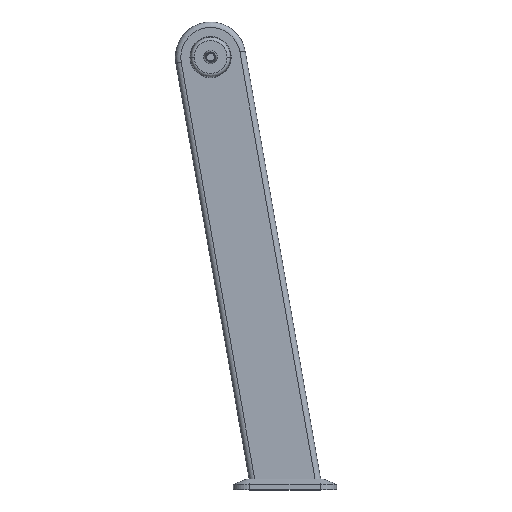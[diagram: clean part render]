
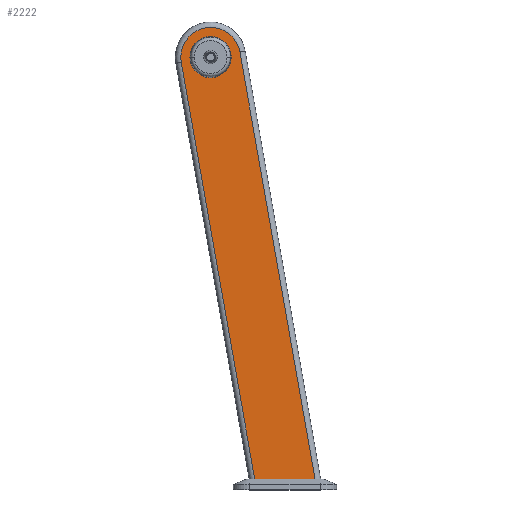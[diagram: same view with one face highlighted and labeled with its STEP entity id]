
A CAD part, top view. The second image highlights one B-rep face of the part: STEP entity #2222.
In plain terms, the highlighted planar face has unit normal (0, 0, 1).
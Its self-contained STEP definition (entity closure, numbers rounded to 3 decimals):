
#3 = CARTESIAN_POINT ( 'NONE',  ( 38., 0., 31.25 ) ) ;
#42 = AXIS2_PLACEMENT_3D ( 'NONE', #1838, #357, #2095 ) ;
#78 = LINE ( 'NONE', #1497, #2583 ) ;
#145 = VERTEX_POINT ( 'NONE', #3 ) ;
#161 = CARTESIAN_POINT ( 'NONE',  ( 0., -780., 31.25 ) ) ;
#224 = DIRECTION ( 'NONE',  ( 1., 0., 0. ) ) ;
#357 = DIRECTION ( 'NONE',  ( 0., 0., 1. ) ) ;
#381 = CIRCLE ( 'NONE', #2256, 38. ) ;
#503 = CARTESIAN_POINT ( 'NONE',  ( 0., 0., 31.25 ) ) ;
#517 = DIRECTION ( 'NONE',  ( 0., 0., 1. ) ) ;
#529 = LINE ( 'NONE', #1471, #3076 ) ;
#855 = DIRECTION ( 'NONE',  ( 0., 0., 1. ) ) ;
#1014 = VERTEX_POINT ( 'NONE', #2874 ) ;
#1166 = AXIS2_PLACEMENT_3D ( 'NONE', #3193, #1719, #224 ) ;
#1175 = CIRCLE ( 'NONE', #1166, 38. ) ;
#1278 = EDGE_LOOP ( 'NONE', ( #2844, #2201 ) ) ;
#1317 = EDGE_CURVE ( 'NONE', #2536, #145, #381, .T. ) ;
#1471 = CARTESIAN_POINT ( 'NONE',  ( 54.164, 9.551, 31.25 ) ) ;
#1479 = EDGE_CURVE ( 'NONE', #1486, #1713, #2619, .T. ) ;
#1486 = VERTEX_POINT ( 'NONE', #2173 ) ;
#1497 = CARTESIAN_POINT ( 'NONE',  ( 84.907, -798.264, 31.25 ) ) ;
#1616 = ORIENTED_EDGE ( 'NONE', *, *, #1479, .T. ) ;
#1618 = CIRCLE ( 'NONE', #42, 55. ) ;
#1652 = EDGE_CURVE ( 'NONE', #2790, #1486, #78, .T. ) ;
#1713 = VERTEX_POINT ( 'NONE', #2762 ) ;
#1714 = DIRECTION ( 'NONE',  ( -0.174, 0.985, 0. ) ) ;
#1719 = DIRECTION ( 'NONE',  ( 0., 0., 1. ) ) ;
#1817 = EDGE_CURVE ( 'NONE', #1014, #2790, #1618, .T. ) ;
#1838 = CARTESIAN_POINT ( 'NONE',  ( 0., 0., 31.25 ) ) ;
#1876 = CARTESIAN_POINT ( 'NONE',  ( -54.164, -9.551, 31.25 ) ) ;
#1912 = DIRECTION ( 'NONE',  ( 1., 0., 0. ) ) ;
#1962 = VECTOR ( 'NONE', #1912, 1000. ) ;
#2002 = AXIS2_PLACEMENT_3D ( 'NONE', #503, #517, #2249 ) ;
#2095 = DIRECTION ( 'NONE',  ( 1., 0., 0. ) ) ;
#2151 = EDGE_CURVE ( 'NONE', #145, #2536, #1175, .T. ) ;
#2154 = EDGE_CURVE ( 'NONE', #1713, #1014, #529, .T. ) ;
#2173 = CARTESIAN_POINT ( 'NONE',  ( 81.687, -780., 31.25 ) ) ;
#2201 = ORIENTED_EDGE ( 'NONE', *, *, #1317, .F. ) ;
#2222 = ADVANCED_FACE ( 'NONE', ( #2914, #2275 ), #3212, .T. ) ;
#2249 = DIRECTION ( 'NONE',  ( 1., 0., 0. ) ) ;
#2256 = AXIS2_PLACEMENT_3D ( 'NONE', #2348, #855, #2588 ) ;
#2275 = FACE_BOUND ( 'NONE', #1278, .T. ) ;
#2348 = CARTESIAN_POINT ( 'NONE',  ( 0., 0., 31.25 ) ) ;
#2356 = ORIENTED_EDGE ( 'NONE', *, *, #1817, .T. ) ;
#2536 = VERTEX_POINT ( 'NONE', #3195 ) ;
#2583 = VECTOR ( 'NONE', #2988, 1000. ) ;
#2588 = DIRECTION ( 'NONE',  ( 1., 0., 0. ) ) ;
#2619 = LINE ( 'NONE', #161, #1962 ) ;
#2762 = CARTESIAN_POINT ( 'NONE',  ( 193.384, -780., 31.25 ) ) ;
#2790 = VERTEX_POINT ( 'NONE', #1876 ) ;
#2844 = ORIENTED_EDGE ( 'NONE', *, *, #2151, .F. ) ;
#2874 = CARTESIAN_POINT ( 'NONE',  ( 54.164, 9.551, 31.25 ) ) ;
#2914 = FACE_OUTER_BOUND ( 'NONE', #2977, .T. ) ;
#2915 = ORIENTED_EDGE ( 'NONE', *, *, #1652, .T. ) ;
#2977 = EDGE_LOOP ( 'NONE', ( #2998, #2356, #2915, #1616 ) ) ;
#2988 = DIRECTION ( 'NONE',  ( 0.174, -0.985, 0. ) ) ;
#2998 = ORIENTED_EDGE ( 'NONE', *, *, #2154, .T. ) ;
#3076 = VECTOR ( 'NONE', #1714, 1000. ) ;
#3193 = CARTESIAN_POINT ( 'NONE',  ( 0., 0., 31.25 ) ) ;
#3195 = CARTESIAN_POINT ( 'NONE',  ( -38., 0., 31.25 ) ) ;
#3212 = PLANE ( 'NONE',  #2002 ) ;
